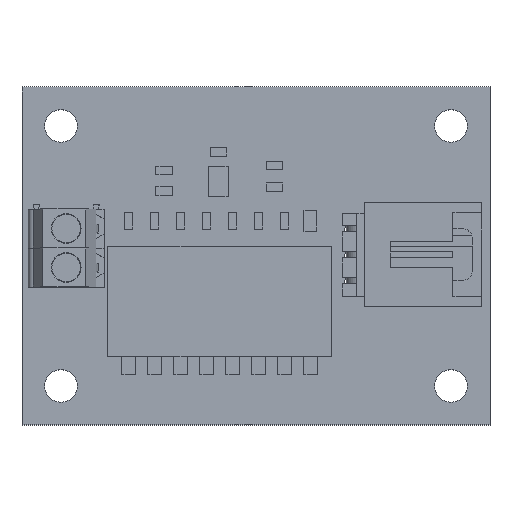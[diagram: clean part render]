
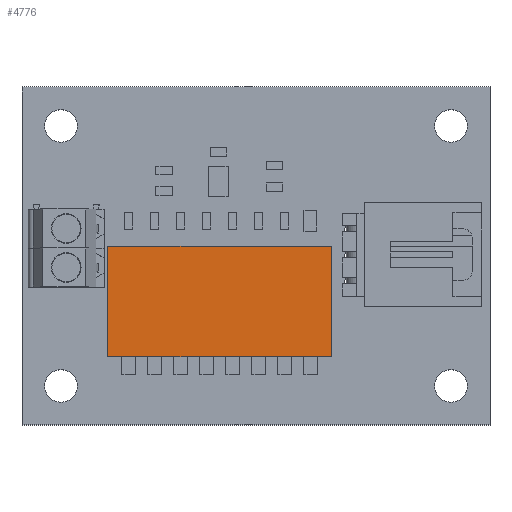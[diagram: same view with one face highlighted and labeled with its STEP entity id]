
A CAD part, top view. The second image highlights one B-rep face of the part: STEP entity #4776.
In plain terms, the highlighted planar face has unit normal (0, 0, 1).
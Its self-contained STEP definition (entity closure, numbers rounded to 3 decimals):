
#4462 = VERTEX_POINT('',#4463);
#4463 = CARTESIAN_POINT('',(-10.935,-5.405,7.2));
#4470 = PLANE('',#4471);
#4471 = AXIS2_PLACEMENT_3D('',#4472,#4473,#4474);
#4472 = CARTESIAN_POINT('',(-10.935,-5.405,0.));
#4473 = DIRECTION('',(-1.,0.,0.));
#4474 = DIRECTION('',(0.,1.,0.));
#4482 = PLANE('',#4483);
#4483 = AXIS2_PLACEMENT_3D('',#4484,#4485,#4486);
#4484 = CARTESIAN_POINT('',(10.935,-5.405,0.));
#4485 = DIRECTION('',(0.,-1.,0.));
#4486 = DIRECTION('',(-1.,0.,0.));
#4494 = EDGE_CURVE('',#4462,#4495,#4497,.T.);
#4495 = VERTEX_POINT('',#4496);
#4496 = CARTESIAN_POINT('',(-10.935,5.405,7.2));
#4497 = SURFACE_CURVE('',#4498,(#4502,#4509),.PCURVE_S1.);
#4498 = LINE('',#4499,#4500);
#4499 = CARTESIAN_POINT('',(-10.935,-5.405,7.2));
#4500 = VECTOR('',#4501,1.);
#4501 = DIRECTION('',(0.,1.,0.));
#4502 = PCURVE('',#4470,#4503);
#4503 = DEFINITIONAL_REPRESENTATION('',(#4504),#4508);
#4504 = LINE('',#4505,#4506);
#4505 = CARTESIAN_POINT('',(0.,-7.2));
#4506 = VECTOR('',#4507,1.);
#4507 = DIRECTION('',(1.,0.));
#4508 = ( GEOMETRIC_REPRESENTATION_CONTEXT(2) 
PARAMETRIC_REPRESENTATION_CONTEXT() REPRESENTATION_CONTEXT('2D SPACE',''
  ) );
#4509 = PCURVE('',#4510,#4515);
#4510 = PLANE('',#4511);
#4511 = AXIS2_PLACEMENT_3D('',#4512,#4513,#4514);
#4512 = CARTESIAN_POINT('',(-10.935,-5.405,7.2));
#4513 = DIRECTION('',(0.,0.,1.));
#4514 = DIRECTION('',(1.,0.,0.));
#4515 = DEFINITIONAL_REPRESENTATION('',(#4516),#4520);
#4516 = LINE('',#4517,#4518);
#4517 = CARTESIAN_POINT('',(0.,0.));
#4518 = VECTOR('',#4519,1.);
#4519 = DIRECTION('',(0.,1.));
#4520 = ( GEOMETRIC_REPRESENTATION_CONTEXT(2) 
PARAMETRIC_REPRESENTATION_CONTEXT() REPRESENTATION_CONTEXT('2D SPACE',''
  ) );
#4538 = PLANE('',#4539);
#4539 = AXIS2_PLACEMENT_3D('',#4540,#4541,#4542);
#4540 = CARTESIAN_POINT('',(-10.935,5.405,0.));
#4541 = DIRECTION('',(0.,1.,0.));
#4542 = DIRECTION('',(1.,0.,0.));
#4580 = EDGE_CURVE('',#4495,#4581,#4583,.T.);
#4581 = VERTEX_POINT('',#4582);
#4582 = CARTESIAN_POINT('',(10.935,5.405,7.2));
#4583 = SURFACE_CURVE('',#4584,(#4588,#4595),.PCURVE_S1.);
#4584 = LINE('',#4585,#4586);
#4585 = CARTESIAN_POINT('',(-10.935,5.405,7.2));
#4586 = VECTOR('',#4587,1.);
#4587 = DIRECTION('',(1.,0.,0.));
#4588 = PCURVE('',#4538,#4589);
#4589 = DEFINITIONAL_REPRESENTATION('',(#4590),#4594);
#4590 = LINE('',#4591,#4592);
#4591 = CARTESIAN_POINT('',(0.,-7.2));
#4592 = VECTOR('',#4593,1.);
#4593 = DIRECTION('',(1.,0.));
#4594 = ( GEOMETRIC_REPRESENTATION_CONTEXT(2) 
PARAMETRIC_REPRESENTATION_CONTEXT() REPRESENTATION_CONTEXT('2D SPACE',''
  ) );
#4595 = PCURVE('',#4510,#4596);
#4596 = DEFINITIONAL_REPRESENTATION('',(#4597),#4601);
#4597 = LINE('',#4598,#4599);
#4598 = CARTESIAN_POINT('',(0.,10.81));
#4599 = VECTOR('',#4600,1.);
#4600 = DIRECTION('',(1.,0.));
#4601 = ( GEOMETRIC_REPRESENTATION_CONTEXT(2) 
PARAMETRIC_REPRESENTATION_CONTEXT() REPRESENTATION_CONTEXT('2D SPACE',''
  ) );
#4619 = PLANE('',#4620);
#4620 = AXIS2_PLACEMENT_3D('',#4621,#4622,#4623);
#4621 = CARTESIAN_POINT('',(10.935,5.405,0.));
#4622 = DIRECTION('',(1.,0.,0.));
#4623 = DIRECTION('',(0.,-1.,0.));
#4656 = EDGE_CURVE('',#4581,#4657,#4659,.T.);
#4657 = VERTEX_POINT('',#4658);
#4658 = CARTESIAN_POINT('',(10.935,-5.405,7.2));
#4659 = SURFACE_CURVE('',#4660,(#4664,#4671),.PCURVE_S1.);
#4660 = LINE('',#4661,#4662);
#4661 = CARTESIAN_POINT('',(10.935,5.405,7.2));
#4662 = VECTOR('',#4663,1.);
#4663 = DIRECTION('',(0.,-1.,0.));
#4664 = PCURVE('',#4619,#4665);
#4665 = DEFINITIONAL_REPRESENTATION('',(#4666),#4670);
#4666 = LINE('',#4667,#4668);
#4667 = CARTESIAN_POINT('',(0.,-7.2));
#4668 = VECTOR('',#4669,1.);
#4669 = DIRECTION('',(1.,0.));
#4670 = ( GEOMETRIC_REPRESENTATION_CONTEXT(2) 
PARAMETRIC_REPRESENTATION_CONTEXT() REPRESENTATION_CONTEXT('2D SPACE',''
  ) );
#4671 = PCURVE('',#4510,#4672);
#4672 = DEFINITIONAL_REPRESENTATION('',(#4673),#4677);
#4673 = LINE('',#4674,#4675);
#4674 = CARTESIAN_POINT('',(21.87,10.81));
#4675 = VECTOR('',#4676,1.);
#4676 = DIRECTION('',(0.,-1.));
#4677 = ( GEOMETRIC_REPRESENTATION_CONTEXT(2) 
PARAMETRIC_REPRESENTATION_CONTEXT() REPRESENTATION_CONTEXT('2D SPACE',''
  ) );
#4727 = EDGE_CURVE('',#4657,#4462,#4728,.T.);
#4728 = SURFACE_CURVE('',#4729,(#4733,#4740),.PCURVE_S1.);
#4729 = LINE('',#4730,#4731);
#4730 = CARTESIAN_POINT('',(10.935,-5.405,7.2));
#4731 = VECTOR('',#4732,1.);
#4732 = DIRECTION('',(-1.,0.,0.));
#4733 = PCURVE('',#4482,#4734);
#4734 = DEFINITIONAL_REPRESENTATION('',(#4735),#4739);
#4735 = LINE('',#4736,#4737);
#4736 = CARTESIAN_POINT('',(0.,-7.2));
#4737 = VECTOR('',#4738,1.);
#4738 = DIRECTION('',(1.,0.));
#4739 = ( GEOMETRIC_REPRESENTATION_CONTEXT(2) 
PARAMETRIC_REPRESENTATION_CONTEXT() REPRESENTATION_CONTEXT('2D SPACE',''
  ) );
#4740 = PCURVE('',#4510,#4741);
#4741 = DEFINITIONAL_REPRESENTATION('',(#4742),#4746);
#4742 = LINE('',#4743,#4744);
#4743 = CARTESIAN_POINT('',(21.87,0.));
#4744 = VECTOR('',#4745,1.);
#4745 = DIRECTION('',(-1.,0.));
#4746 = ( GEOMETRIC_REPRESENTATION_CONTEXT(2) 
PARAMETRIC_REPRESENTATION_CONTEXT() REPRESENTATION_CONTEXT('2D SPACE',''
  ) );
#4776 = ADVANCED_FACE('',(#4777),#4510,.T.);
#4777 = FACE_BOUND('',#4778,.F.);
#4778 = EDGE_LOOP('',(#4779,#4780,#4781,#4782));
#4779 = ORIENTED_EDGE('',*,*,#4494,.T.);
#4780 = ORIENTED_EDGE('',*,*,#4580,.T.);
#4781 = ORIENTED_EDGE('',*,*,#4656,.T.);
#4782 = ORIENTED_EDGE('',*,*,#4727,.T.);
